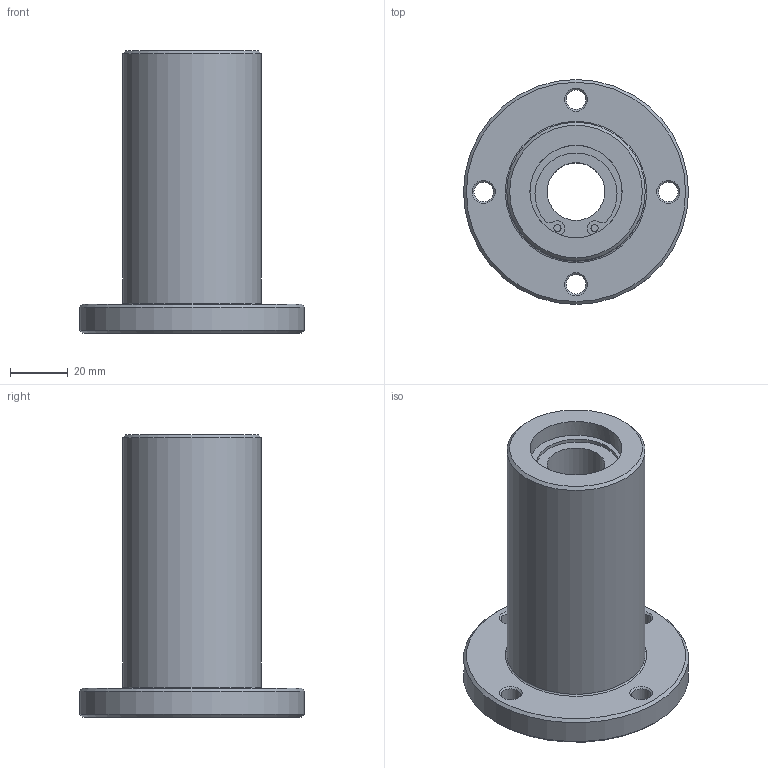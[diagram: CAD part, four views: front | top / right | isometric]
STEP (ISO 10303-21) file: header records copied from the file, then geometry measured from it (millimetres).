
FILE_DESCRIPTION(('STEP AP203'),'1');
FILE_NAME('//192.168.1.1/share/s-4 技術開発/s-4-4_CAD/s-4-4-3_見直し済み/009 修正済み/LCFD-A/LCFD-A_TOP/LCFD-20AVUU.step','2022-02-04T05:55:06',(' '),(' '),'Spatial InterOp 3D',' ',' ');
FILE_SCHEMA(('CONFIG_CONTROL_DESIGN'));
Length unit declared in the file: millimetre
Products named in the file (1): 1
Bounding box: 78 x 78 x 98 mm (x, y, z)
Volume: 167087.3 mm3; surface area: 31506.5 mm2
Topology: 1 solids, 1 shells, 56 faces, 134 edges, 88 vertices
Faces by surface type: cylinder 28, plane 16, cone 11, torus 1
Full cylindrical faces by diameter (mm): 2.5 x4, 6.75 x4, 20 x1, 32 x2, 48 x1, 50.3 x1, 78 x1
Entity records: 1500 total; most frequent: DIRECTION 282, CARTESIAN_POINT 233, ORIENTED_EDGE 196, AXIS2_PLACEMENT_3D 127, EDGE_LOOP 100, EDGE_CURVE 98, VERTEX_POINT 78, FACE_OUTER_BOUND 71
